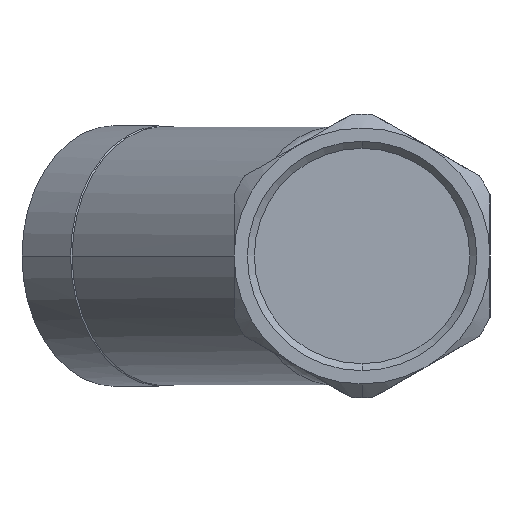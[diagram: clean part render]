
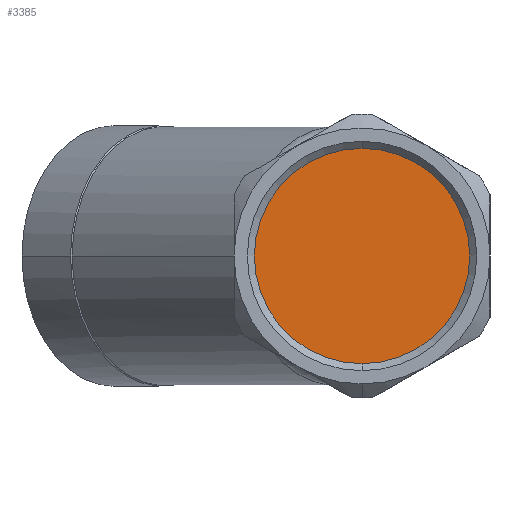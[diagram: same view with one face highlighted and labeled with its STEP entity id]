
A CAD part, left-side view. The second image highlights one B-rep face of the part: STEP entity #3385.
In plain terms, the highlighted planar face has unit normal (-1, 0, 0).
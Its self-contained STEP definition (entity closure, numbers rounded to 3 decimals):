
#10 = FACE_OUTER_BOUND ( 'NONE', #2256, .T. ) ;
#424 = DIRECTION ( 'NONE',  ( 0., 0., 1. ) ) ;
#428 = CARTESIAN_POINT ( 'NONE',  ( -39., 0., -23.15 ) ) ;
#766 = AXIS2_PLACEMENT_3D ( 'NONE', #1922, #1904, #1858 ) ;
#903 = CIRCLE ( 'NONE', #3920, 23.15 ) ;
#1213 = CARTESIAN_POINT ( 'NONE',  ( -39., 23.15, 0. ) ) ;
#1361 = ORIENTED_EDGE ( 'NONE', *, *, #3851, .T. ) ;
#1419 = ORIENTED_EDGE ( 'NONE', *, *, #2437, .T. ) ;
#1858 = DIRECTION ( 'NONE',  ( 0., 0., 1. ) ) ;
#1861 = DIRECTION ( 'NONE',  ( -1., 0., 0. ) ) ;
#1904 = DIRECTION ( 'NONE',  ( -1., 0., 0. ) ) ;
#1922 = CARTESIAN_POINT ( 'NONE',  ( -39., 0., 0. ) ) ;
#2063 = CIRCLE ( 'NONE', #766, 23.15 ) ;
#2256 = EDGE_LOOP ( 'NONE', ( #1361, #1419 ) ) ;
#2420 = AXIS2_PLACEMENT_3D ( 'NONE', #1213, #2643, #424 ) ;
#2437 = EDGE_CURVE ( 'NONE', #4127, #3909, #2063, .T. ) ;
#2584 = CARTESIAN_POINT ( 'NONE',  ( -39., 0., 23.15 ) ) ;
#2643 = DIRECTION ( 'NONE',  ( -1., 0., 0. ) ) ;
#3385 = ADVANCED_FACE ( 'NONE', ( #10 ), #3894, .T. ) ;
#3834 = CARTESIAN_POINT ( 'NONE',  ( -39., 0., 0. ) ) ;
#3851 = EDGE_CURVE ( 'NONE', #3909, #4127, #903, .T. ) ;
#3894 = PLANE ( 'NONE',  #2420 ) ;
#3909 = VERTEX_POINT ( 'NONE', #2584 ) ;
#3920 = AXIS2_PLACEMENT_3D ( 'NONE', #3834, #1861, #4103 ) ;
#4103 = DIRECTION ( 'NONE',  ( 0., 0., 1. ) ) ;
#4127 = VERTEX_POINT ( 'NONE', #428 ) ;
